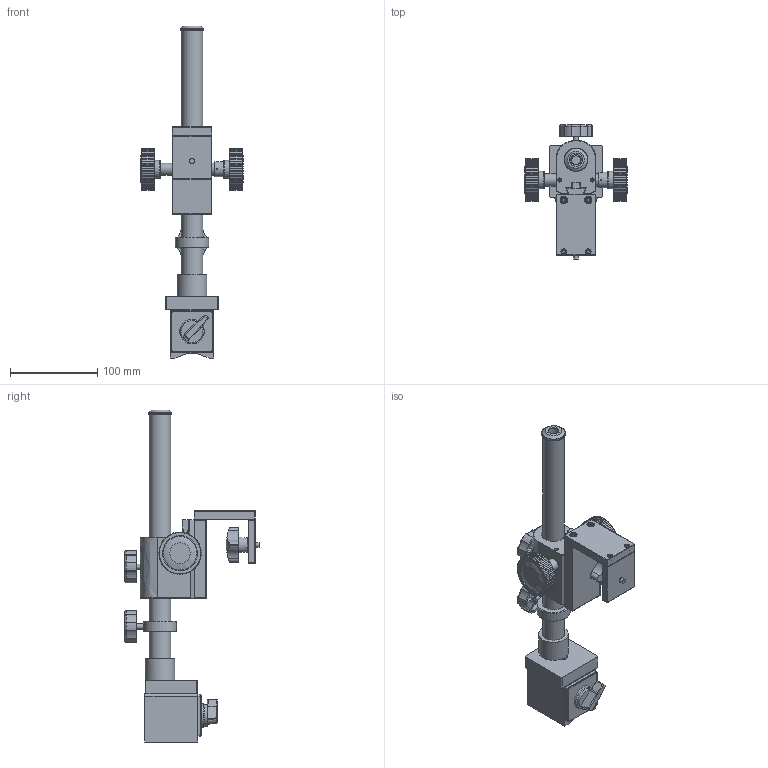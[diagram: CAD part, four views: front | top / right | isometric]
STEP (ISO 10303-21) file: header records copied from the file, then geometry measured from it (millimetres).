
FILE_DESCRIPTION(('STEP AP214'),'1');
FILE_NAME('MG-25-1.stp','2026-07-03T02:24:47',(' '),(' '),'Spatial InterOp 3D',' ',' ');
FILE_SCHEMA(('AUTOMOTIVE_DESIGN { 1 0 10303 214 1 1 1 1 }'));
Length unit declared in the file: metre
Products named in the file (4): MG-25-1; Component1; Component2; Component3
Assembly tree (3 placements, depth 2):
  MG-25-1
    Component1
    Component2
    Component3
Bounding box: 117.94 x 153.71 x 380.2 mm (x, y, z)
Volume: 647534.3 mm3; surface area: 170219.2 mm2
Topology: 4 solids, 9 shells, 2060 faces, 5003 edges, 2927 vertices
Faces by surface type: plane 1304, cylinder 523, bspline 143, torus 57, cone 24, sphere 9
Full cylindrical faces by diameter (mm): 1.5 x4, 3.9 x2, 4 x4, 4.25 x1, 5 x2, 5.1 x2, 5.6 x2, 5.8 x1, 6 x2, 6.4 x2, 6.5 x1, 6.9 x3, 7 x2, 8.5 x2, 9.8 x2, 9.9 x2, 10 x3, 11.7 x3, 12.9 x1, 14 x3, 14.9 x2, 15.2 x1, 17.4 x1, 17.6 x1, 18 x2, 20.2 x2, 21 x3, 25 x5, 27 x1, 28 x1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
Entity records: 148624 total; most frequent: CARTESIAN_POINT 61261, DIRECTION 9716, ORIENTED_EDGE 9580, STYLED_ITEM 6854, PRESENTATION_STYLE_ASSIGNMENT 6854, COLOUR_RGB 6854, EDGE_CURVE 4790, CURVE_STYLE 4790
